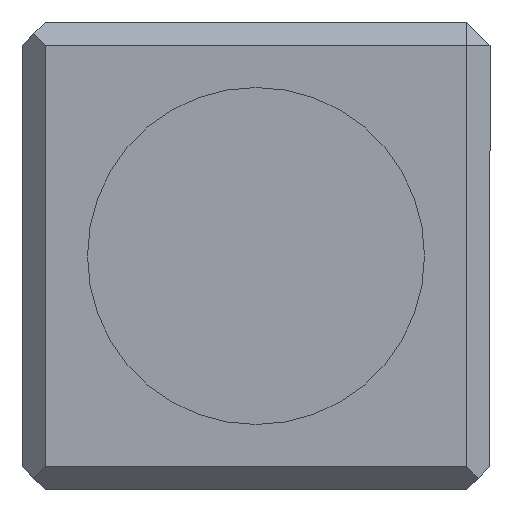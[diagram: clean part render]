
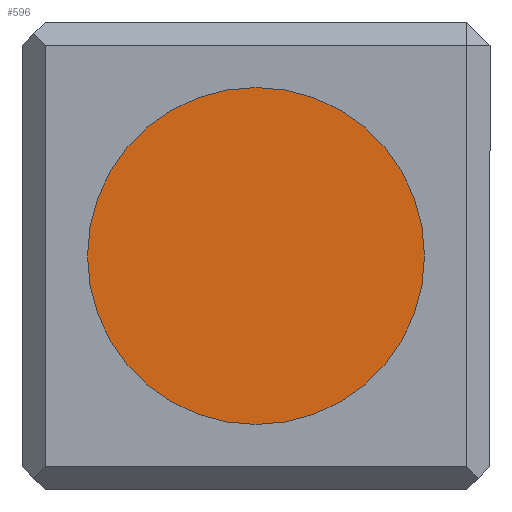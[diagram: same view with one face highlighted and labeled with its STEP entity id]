
A CAD part, front view. The second image highlights one B-rep face of the part: STEP entity #596.
In plain terms, the highlighted planar face has unit normal (0, -1, 0).
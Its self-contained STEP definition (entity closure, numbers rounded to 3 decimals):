
#60 = DIRECTION ( 'NONE',  ( 0., -1., 0. ) ) ;
#69 = DIRECTION ( 'NONE',  ( 0., -1., 0. ) ) ;
#115 = CIRCLE ( 'NONE', #144, 3.6 ) ;
#132 = VERTEX_POINT ( 'NONE', #505 ) ;
#144 = AXIS2_PLACEMENT_3D ( 'NONE', #455, #560, #451 ) ;
#237 = CARTESIAN_POINT ( 'NONE',  ( 0., 8.8, 0. ) ) ;
#299 = EDGE_CURVE ( 'NONE', #132, #622, #115, .T. ) ;
#301 = DIRECTION ( 'NONE',  ( 0., 0., -1. ) ) ;
#350 = AXIS2_PLACEMENT_3D ( 'NONE', #361, #60, #468 ) ;
#361 = CARTESIAN_POINT ( 'NONE',  ( 0., 8.8, 0. ) ) ;
#451 = DIRECTION ( 'NONE',  ( 0., 0., -1. ) ) ;
#455 = CARTESIAN_POINT ( 'NONE',  ( 0., 8.8, 0. ) ) ;
#468 = DIRECTION ( 'NONE',  ( 0., 0., -1. ) ) ;
#482 = CIRCLE ( 'NONE', #350, 3.6 ) ;
#502 = ORIENTED_EDGE ( 'NONE', *, *, #299, .T. ) ;
#505 = CARTESIAN_POINT ( 'NONE',  ( 0., 8.8, -3.6 ) ) ;
#527 = EDGE_LOOP ( 'NONE', ( #502, #663 ) ) ;
#534 = FACE_OUTER_BOUND ( 'NONE', #527, .T. ) ;
#560 = DIRECTION ( 'NONE',  ( 0., -1., 0. ) ) ;
#596 = ADVANCED_FACE ( 'NONE', ( #534 ), #635, .T. ) ;
#622 = VERTEX_POINT ( 'NONE', #631 ) ;
#631 = CARTESIAN_POINT ( 'NONE',  ( 0., 8.8, 3.6 ) ) ;
#635 = PLANE ( 'NONE',  #662 ) ;
#662 = AXIS2_PLACEMENT_3D ( 'NONE', #237, #69, #301 ) ;
#663 = ORIENTED_EDGE ( 'NONE', *, *, #669, .T. ) ;
#669 = EDGE_CURVE ( 'NONE', #622, #132, #482, .T. ) ;
